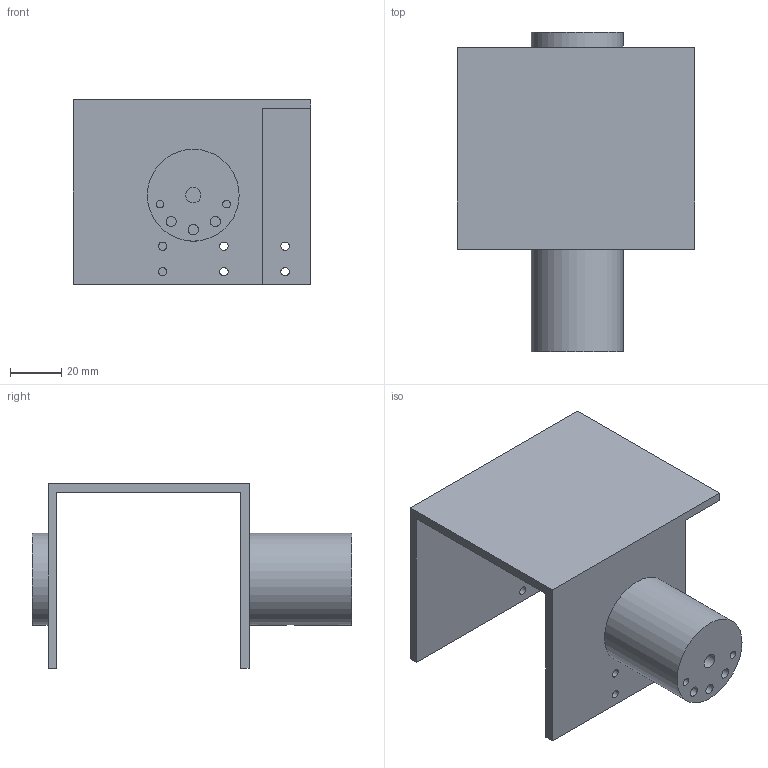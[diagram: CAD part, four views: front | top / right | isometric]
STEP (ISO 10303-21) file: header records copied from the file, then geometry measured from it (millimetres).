
FILE_DESCRIPTION(('Open CASCADE Model'),'2;1');
FILE_NAME('Open CASCADE Shape Model','2026-10-17T23:18:52',('Author'),( 'Open CASCADE'),'Open CASCADE STEP processor 7.9','Open CASCADE 7.9' ,'Unknown');
FILE_SCHEMA(('AUTOMOTIVE_DESIGN { 1 0 10303 214 1 1 1 1 }'));
Length unit declared in the file: millimetre
Products named in the file (1): Open CASCADE STEP translator 7.9 4
Bounding box: 93 x 125.24 x 72.5 mm (x, y, z)
Volume: 103261.7 mm3; surface area: 48347.4 mm2
Topology: 1 solids, 1 shells, 40 faces, 84 edges, 56 vertices
Faces by surface type: plane 21, cylinder 19
Full cylindrical faces by diameter (mm): 3 x2, 3.3 x8, 4 x4, 6 x1, 7 x1, 20 x1, 36 x2
Entity records: 2612 total; most frequent: CARTESIAN_POINT 829, DIRECTION 336, ORIENTED_EDGE 168, LINE 168, VECTOR 168, PCURVE 168, DEFINITIONAL_REPRESENTATION 168, EDGE_CURVE 84
